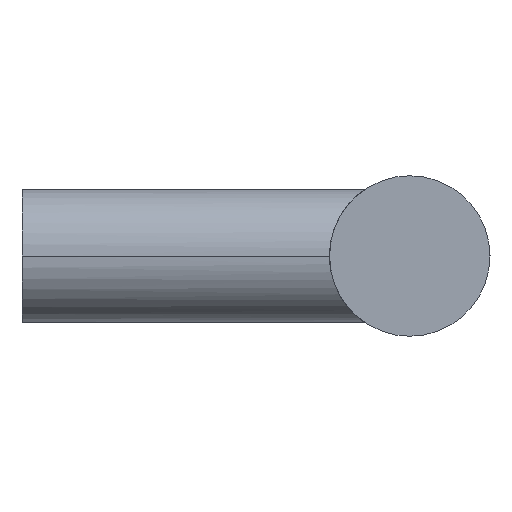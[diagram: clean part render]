
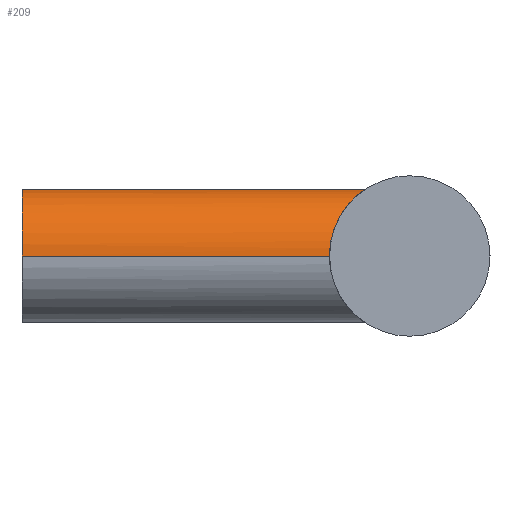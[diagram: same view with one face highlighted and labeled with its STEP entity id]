
A CAD part, left-side view. The second image highlights one B-rep face of the part: STEP entity #209.
In plain terms, the highlighted cylindrical face has radius 5 mm (diameter 10 mm), a partial arc.
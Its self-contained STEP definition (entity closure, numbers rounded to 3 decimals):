
#95 = EDGE_CURVE( '', #103, #187, #253, .T. );
#103 = VERTEX_POINT( '', #262 );
#105 = VERTEX_POINT( '', #264 );
#123 = EDGE_CURVE( '', #105, #201, #283, .T. );
#133 = EDGE_CURVE( '', #201, #103, #294, .T. );
#149 = EDGE_CURVE( '', #187, #195, #316, .T. );
#185 = EDGE_CURVE( '', #195, #105, #355, .T. );
#187 = VERTEX_POINT( '', #357 );
#195 = VERTEX_POINT( '', #365 );
#201 = VERTEX_POINT( '', #371 );
#209 = ADVANCED_FACE( '', ( #380 ), #381, .T. );
#253 = B_SPLINE_CURVE_WITH_KNOTS( '', 3, ( #422, #423, #424, #425, #426, #427, #428, #429, #430, #431, #432, #433, #434, #435, #436, #437, #438, #439 ), .UNSPECIFIED., .F., .F., ( 4, 2, 2, 2, 2, 2, 2, 2, 4 ), ( 0., 1.041, 2.083, 3.124, 4.165, 5.164, 6.163, 7.162, 8.161 ), .UNSPECIFIED. );
#262 = CARTESIAN_POINT( '', ( 0., -25.683, 5. ) );
#264 = CARTESIAN_POINT( '', ( 5., 0., 0. ) );
#283 = LINE( '', #495, #496 );
#294 = B_SPLINE_CURVE_WITH_KNOTS( '', 3, ( #544, #545, #546, #547, #548, #549, #550, #551, #552, #553, #554, #555, #556, #557, #558, #559, #560, #561 ), .UNSPECIFIED., .F., .F., ( 4, 2, 2, 2, 2, 2, 2, 2, 4 ), ( 24.483, 25.482, 26.481, 27.479, 28.478, 29.52, 30.561, 31.602, 32.643 ), .UNSPECIFIED. );
#316 = LINE( '', #586, #587 );
#355 = CIRCLE( '', #639, 5. );
#357 = CARTESIAN_POINT( '', ( -5., -23., 0. ) );
#365 = CARTESIAN_POINT( '', ( -5., 0., 0. ) );
#371 = CARTESIAN_POINT( '', ( 5., -23., 0. ) );
#380 = FACE_OUTER_BOUND( '', #719, .T. );
#381 = CYLINDRICAL_SURFACE( '', #720, 5. );
#422 = CARTESIAN_POINT( '', ( 0., -25.683, 5. ) );
#423 = CARTESIAN_POINT( '', ( -0.347, -25.683, 5. ) );
#424 = CARTESIAN_POINT( '', ( -0.687, -25.627, 4.964 ) );
#425 = CARTESIAN_POINT( '', ( -1.343, -25.436, 4.828 ) );
#426 = CARTESIAN_POINT( '', ( -1.659, -25.301, 4.728 ) );
#427 = CARTESIAN_POINT( '', ( -2.259, -24.995, 4.472 ) );
#428 = CARTESIAN_POINT( '', ( -2.544, -24.825, 4.316 ) );
#429 = CARTESIAN_POINT( '', ( -3.073, -24.483, 3.957 ) );
#430 = CARTESIAN_POINT( '', ( -3.317, -24.311, 3.754 ) );
#431 = CARTESIAN_POINT( '', ( -3.745, -24., 3.326 ) );
#432 = CARTESIAN_POINT( '', ( -3.946, -23.847, 3.088 ) );
#433 = CARTESIAN_POINT( '', ( -4.306, -23.566, 2.561 ) );
#434 = CARTESIAN_POINT( '', ( -4.467, -23.437, 2.272 ) );
#435 = CARTESIAN_POINT( '', ( -4.728, -23.225, 1.659 ) );
#436 = CARTESIAN_POINT( '', ( -4.83, -23.141, 1.335 ) );
#437 = CARTESIAN_POINT( '', ( -4.966, -23.028, 0.672 ) );
#438 = CARTESIAN_POINT( '', ( -5., -23., 0.333 ) );
#439 = CARTESIAN_POINT( '', ( -5., -23., 0. ) );
#495 = CARTESIAN_POINT( '', ( 5., 0., 0. ) );
#496 = VECTOR( '', #784, 1. );
#544 = CARTESIAN_POINT( '', ( 5., -23., 0. ) );
#545 = CARTESIAN_POINT( '', ( 5., -23., 0.333 ) );
#546 = CARTESIAN_POINT( '', ( 4.966, -23.028, 0.672 ) );
#547 = CARTESIAN_POINT( '', ( 4.83, -23.141, 1.335 ) );
#548 = CARTESIAN_POINT( '', ( 4.728, -23.225, 1.659 ) );
#549 = CARTESIAN_POINT( '', ( 4.467, -23.437, 2.272 ) );
#550 = CARTESIAN_POINT( '', ( 4.306, -23.566, 2.561 ) );
#551 = CARTESIAN_POINT( '', ( 3.946, -23.847, 3.088 ) );
#552 = CARTESIAN_POINT( '', ( 3.745, -24., 3.326 ) );
#553 = CARTESIAN_POINT( '', ( 3.317, -24.311, 3.754 ) );
#554 = CARTESIAN_POINT( '', ( 3.073, -24.483, 3.957 ) );
#555 = CARTESIAN_POINT( '', ( 2.544, -24.825, 4.316 ) );
#556 = CARTESIAN_POINT( '', ( 2.259, -24.995, 4.472 ) );
#557 = CARTESIAN_POINT( '', ( 1.659, -25.301, 4.728 ) );
#558 = CARTESIAN_POINT( '', ( 1.343, -25.436, 4.828 ) );
#559 = CARTESIAN_POINT( '', ( 0.687, -25.627, 4.964 ) );
#560 = CARTESIAN_POINT( '', ( 0.347, -25.683, 5. ) );
#561 = CARTESIAN_POINT( '', ( 0., -25.683, 5. ) );
#586 = CARTESIAN_POINT( '', ( -5., 0., 0. ) );
#587 = VECTOR( '', #835, 1. );
#639 = AXIS2_PLACEMENT_3D( '', #874, #875, #876 );
#719 = EDGE_LOOP( '', ( #891, #892, #893, #894, #895 ) );
#720 = AXIS2_PLACEMENT_3D( '', #896, #897, #898 );
#784 = DIRECTION( '', ( 0., -1., 0. ) );
#835 = DIRECTION( '', ( 0., 1., 0. ) );
#874 = CARTESIAN_POINT( '', ( 0., 0., 0. ) );
#875 = DIRECTION( '', ( 0., 1., 0. ) );
#876 = DIRECTION( '', ( 1., 0., 0. ) );
#891 = ORIENTED_EDGE( '', *, *, #123, .F. );
#892 = ORIENTED_EDGE( '', *, *, #185, .F. );
#893 = ORIENTED_EDGE( '', *, *, #149, .F. );
#894 = ORIENTED_EDGE( '', *, *, #95, .F. );
#895 = ORIENTED_EDGE( '', *, *, #133, .F. );
#896 = CARTESIAN_POINT( '', ( 0., 0., 0. ) );
#897 = DIRECTION( '', ( 0., 1., 0. ) );
#898 = DIRECTION( '', ( 1., 0., 0. ) );
